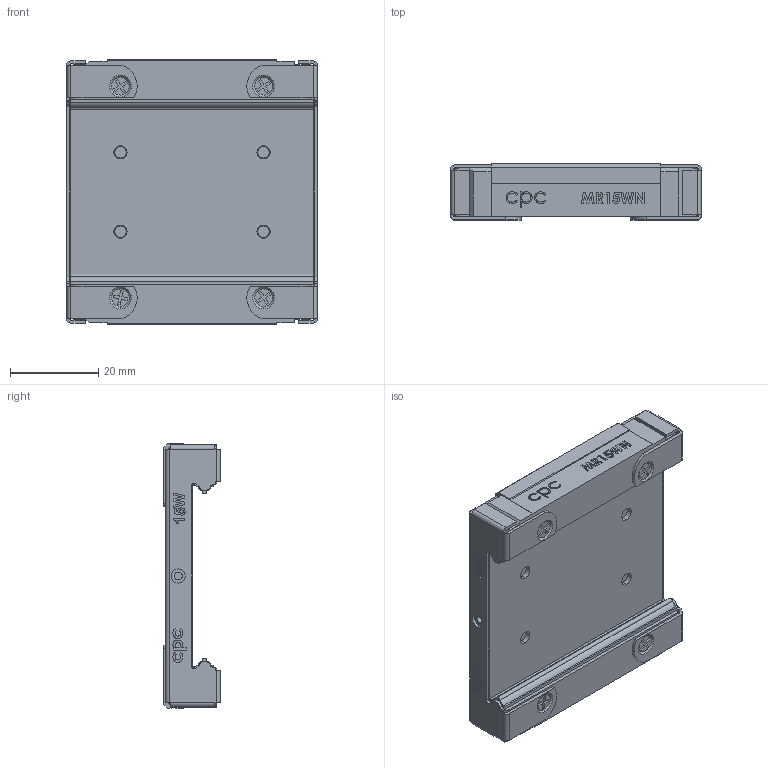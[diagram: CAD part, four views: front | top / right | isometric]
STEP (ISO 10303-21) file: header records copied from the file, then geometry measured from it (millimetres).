
FILE_DESCRIPTION (( 'STEP AP203' ), '1' );
FILE_NAME ('15WN-EE-EZ.STEP', '2009-08-12T03:11:10', ( 'cpc' ), ( '' ), 'SwSTEP 2.0', 'SolidWorks 2007', '' );
FILE_SCHEMA (( 'CONFIG_CONTROL_DESIGN' ));
Products named in the file (5): 15WN-EE-EZ; 15WN-SS-ZZ-block(x1)_預設; MR15W-加強片(070504)-X3  _預設; M2x0.4-screw-2_預設; 埋頭螺絲M3-2__預設
Assembly tree (11 placements, depth 2):
  15WN-EE-EZ
    埋頭螺絲M3-2__預設  x4
    M2x0.4-screw-2_預設  x4
    15WN-SS-ZZ-block(x1)_預設
    MR15W-加強片(070504)-X3  _預設  x2
Bounding box: 56.9 x 12.8 x 60 mm (x, y, z)
Volume: 27096.9 mm3; surface area: 16554.4 mm2
Topology: 11 solids, 11 shells, 1142 faces, 3034 edges, 1988 vertices
Faces by surface type: plane 637, bspline 292, cylinder 141, cone 72
Entity records: 36422 total; most frequent: CARTESIAN_POINT 17260, ORIENTED_EDGE 4210, DIRECTION 3079, EDGE_CURVE 2105, VECTOR 1461, LINE 1461, VERTEX_POINT 1390, EDGE_LOOP 865
